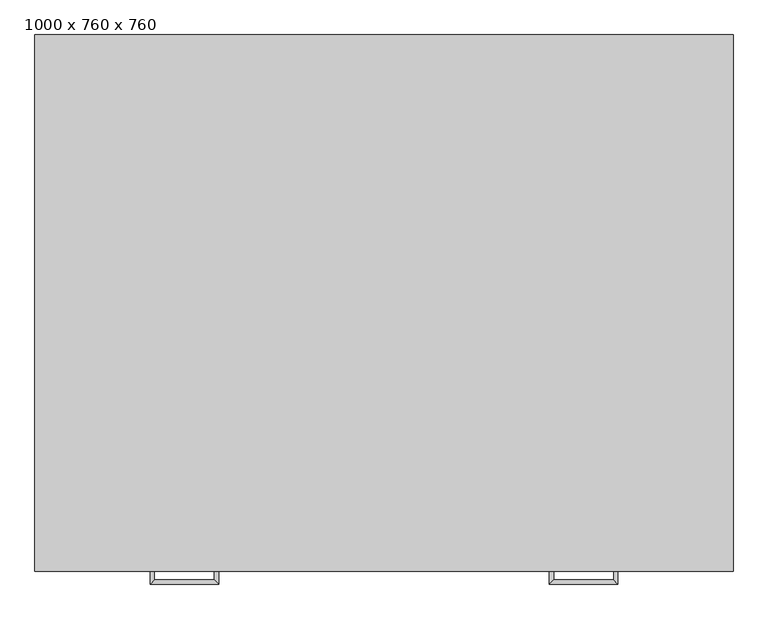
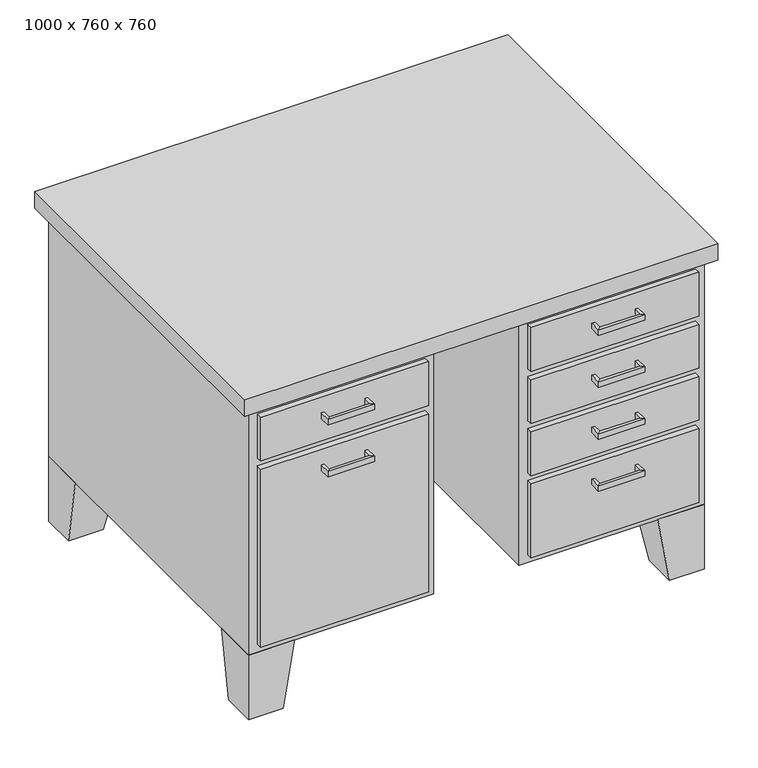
"""IFC4 building model written with IfcOpenShell, lengths in millimetres: furniture geometry, Schreibtisch-06 : 1000 x 760 x 760."""

from ifc_helpers import new_model, si_unit, frame, origin, place, context, project, spatial, polyline, outline, extrude, faceted_brep, source, transform, mapped, element, save


def furniture_1000_x_760_x_760_02e18f98(model_context):
    return source(origin(), model_context, "Body", "SolidModel", [
        extrude(outline(polyline([(281.05, 1.0), (649.35, 1.0), (649.35, -11.7), (281.05, -11.7), (281.05, 1.0)])), frame((0.0, 0.0, 601.25), z_axis=(0.0, 0.0, 1.0), x_axis=(1.0, 0.0, 0.0)), (0.0, 0.0, 1.0), 101.6),
        extrude(outline(polyline([(281.05, 1.0), (649.35, 1.0), (649.35, -11.7), (281.05, -11.7), (281.05, 1.0)])), frame((0.0, 0.0, 169.05), z_axis=(0.0, 0.0, 1.0), x_axis=(1.0, 0.0, 0.0)), (0.0, 0.0, 1.0), 413.15),
        extrude(outline(polyline([(874.65, 1.0), (1242.95, 1.0), (1242.95, -11.7), (874.65, -11.7), (874.65, 1.0)])), frame((0.0, 0.0, 600.85), z_axis=(0.0, 0.0, 1.0), x_axis=(1.0, 0.0, 0.0)), (0.0, 0.0, 1.0), 102.0),
        extrude(outline(polyline([(874.65, 1.0), (1242.95, 1.0), (1242.95, -11.7), (874.65, -11.7), (874.65, 1.0)])), frame((0.0, 0.0, 169.05), z_axis=(0.0, 0.0, 1.0), x_axis=(1.0, 0.0, 0.0)), (0.0, 0.0, 1.0), 171.45),
        extrude(outline(polyline([(874.65, 1.0), (1242.95, 1.0), (1242.95, -11.7), (874.65, -11.7), (874.65, 1.0)])), frame((0.0, 0.0, 480.2), z_axis=(0.0, 0.0, 1.0), x_axis=(1.0, 0.0, 0.0)), (0.0, 0.0, 1.0), 101.6),
        extrude(outline(polyline([(874.65, 1.0), (1242.95, 1.0), (1242.95, -11.7), (874.65, -11.7), (874.65, 1.0)])), frame((0.0, 0.0, 359.55), z_axis=(0.0, 0.0, 1.0), x_axis=(1.0, 0.0, 0.0)), (0.0, 0.0, 1.0), 101.6),
        faceted_brep([(363.6, 1.0, 150.0), (363.6, 102.6, 150.0), (262.0, 102.6, 150.0), (262.0, 1.0, 150.0), (338.2, 1.0, 0.0), (262.0, 1.0, 0.0), (262.0, 77.2, 0.0), (338.2, 77.2, 0.0)], [[[0, 1, 2, 3]], [[4, 5, 6, 7]], [[4, 7, 1, 0]], [[7, 6, 2, 1]], [[6, 5, 3, 2]], [[5, 4, 0, 3]]]),
        faceted_brep([(363.6, 761.0, 150.0), (262.0, 761.0, 150.0), (262.0, 659.4, 150.0), (363.6, 659.4, 150.0), (338.2, 761.0, 0.0), (338.2, 684.8, 0.0), (262.0, 684.8, 0.0), (262.0, 761.0, 0.0)], [[[0, 1, 2, 3]], [[4, 5, 6, 7]], [[4, 7, 1, 0]], [[7, 6, 2, 1]], [[6, 5, 3, 2]], [[5, 4, 0, 3]]]),
        faceted_brep([(1160.4, 761.0, 150.0), (1160.4, 659.4, 150.0), (1262.0, 659.4, 150.0), (1262.0, 761.0, 150.0), (1185.8, 761.0, 0.0), (1262.0, 761.0, 0.0), (1262.0, 684.8, 0.0), (1185.8, 684.8, 0.0)], [[[0, 1, 2, 3]], [[4, 5, 6, 7]], [[4, 7, 1, 0]], [[7, 6, 2, 1]], [[6, 5, 3, 2]], [[5, 4, 0, 3]]]),
        faceted_brep([(1160.4, 1.0, 150.0), (1262.0, 1.0, 150.0), (1262.0, 102.6, 150.0), (1160.4, 102.6, 150.0), (1185.8, 1.0, 0.0), (1185.8, 77.2, 0.0), (1262.0, 77.2, 0.0), (1262.0, 1.0, 0.0)], [[[0, 1, 2, 3]], [[4, 5, 6, 7]], [[4, 7, 1, 0]], [[7, 6, 2, 1]], [[6, 5, 3, 2]], [[5, 4, 0, 3]]]),
        extrude(outline(polyline([(855.6, 1.0), (855.6, 634.0), (668.4, 634.0), (668.4, 1.0), (262.0, 1.0), (262.0, 761.0), (1262.0, 761.0), (1262.0, 1.0), (855.6, 1.0)])), frame((0.0, 0.0, 150.0), z_axis=(0.0, 0.0, 1.0), x_axis=(1.0, 0.0, 0.0)), (0.0, 0.0, 1.0), 571.9),
        extrude(outline(polyline([(242.95, -18.05), (242.95, 780.05), (1281.05, 780.05), (1281.05, -18.05), (242.95, -18.05)])), frame((0.0, 0.0, 721.9), z_axis=(0.0, 0.0, 1.0), x_axis=(1.0, 0.0, 0.0)), (0.0, 0.0, 1.0), 38.1),
        faceted_brep([(420.75, -11.7, 546.1), (420.75, -11.7, 533.4), (414.4, -11.7, 533.4), (414.4, -11.7, 546.1), (420.75, -30.75, 546.1), (420.75, -30.75, 533.4), (414.4, -37.1, 533.4), (414.4, -37.1, 546.1), (509.65, -30.75, 546.1), (509.65, -30.75, 533.4), (516.0, -37.1, 533.4), (516.0, -37.1, 546.1), (509.65, -11.7, 546.1), (516.0, -11.7, 546.1), (516.0, -11.7, 533.4), (509.65, -11.7, 533.4)], [[[0, 1, 2, 3]], [[1, 0, 4, 5]], [[2, 1, 5, 6]], [[3, 2, 6, 7]], [[0, 3, 7, 4]], [[5, 4, 8, 9]], [[6, 5, 9, 10]], [[7, 6, 10, 11]], [[4, 7, 11, 8]], [[12, 13, 14, 15]], [[9, 8, 12, 15]], [[10, 9, 15, 14]], [[11, 10, 14, 13]], [[8, 11, 13, 12]]]),
        faceted_brep([(420.75, -11.7, 666.75), (420.75, -11.7, 654.05), (414.4, -11.7, 654.05), (414.4, -11.7, 666.75), (420.75, -30.75, 666.75), (420.75, -30.75, 654.05), (414.4, -37.1, 654.05), (414.4, -37.1, 666.75), (509.65, -30.75, 666.75), (509.65, -30.75, 654.05), (516.0, -37.1, 654.05), (516.0, -37.1, 666.75), (509.65, -11.7, 666.75), (516.0, -11.7, 666.75), (516.0, -11.7, 654.05), (509.65, -11.7, 654.05)], [[[0, 1, 2, 3]], [[1, 0, 4, 5]], [[2, 1, 5, 6]], [[3, 2, 6, 7]], [[0, 3, 7, 4]], [[5, 4, 8, 9]], [[6, 5, 9, 10]], [[7, 6, 10, 11]], [[4, 7, 11, 8]], [[12, 13, 14, 15]], [[9, 8, 12, 15]], [[10, 9, 15, 14]], [[11, 10, 14, 13]], [[8, 11, 13, 12]]]),
        faceted_brep([(1103.25, -11.7, 304.8), (1109.6, -11.7, 304.8), (1109.6, -11.7, 292.1), (1103.25, -11.7, 292.1), (1103.25, -30.75, 304.8), (1109.6, -37.1, 304.8), (1109.6, -37.1, 292.1), (1103.25, -30.75, 292.1), (1014.35, -30.75, 304.8), (1008.0, -37.1, 304.8), (1008.0, -37.1, 292.1), (1014.35, -30.75, 292.1), (1014.35, -11.7, 304.8), (1014.35, -11.7, 292.1), (1008.0, -11.7, 292.1), (1008.0, -11.7, 304.8)], [[[0, 1, 2, 3]], [[1, 0, 4, 5]], [[2, 1, 5, 6]], [[3, 2, 6, 7]], [[0, 3, 7, 4]], [[5, 4, 8, 9]], [[6, 5, 9, 10]], [[7, 6, 10, 11]], [[4, 7, 11, 8]], [[12, 13, 14, 15]], [[9, 8, 12, 15]], [[10, 9, 15, 14]], [[11, 10, 14, 13]], [[8, 11, 13, 12]]]),
        faceted_brep([(1103.25, -11.7, 425.45), (1109.6, -11.7, 425.45), (1109.6, -11.7, 412.75), (1103.25, -11.7, 412.75), (1103.25, -30.75, 425.45), (1109.6, -37.1, 425.45), (1109.6, -37.1, 412.75), (1103.25, -30.75, 412.75), (1014.35, -30.75, 425.45), (1008.0, -37.1, 425.45), (1008.0, -37.1, 412.75), (1014.35, -30.75, 412.75), (1014.35, -11.7, 425.45), (1014.35, -11.7, 412.75), (1008.0, -11.7, 412.75), (1008.0, -11.7, 425.45)], [[[0, 1, 2, 3]], [[1, 0, 4, 5]], [[2, 1, 5, 6]], [[3, 2, 6, 7]], [[0, 3, 7, 4]], [[5, 4, 8, 9]], [[6, 5, 9, 10]], [[7, 6, 10, 11]], [[4, 7, 11, 8]], [[12, 13, 14, 15]], [[9, 8, 12, 15]], [[10, 9, 15, 14]], [[11, 10, 14, 13]], [[8, 11, 13, 12]]]),
        faceted_brep([(1103.25, -11.7, 546.1), (1109.6, -11.7, 546.1), (1109.6, -11.7, 533.4), (1103.25, -11.7, 533.4), (1103.25, -30.75, 546.1), (1109.6, -37.1, 546.1), (1109.6, -37.1, 533.4), (1103.25, -30.75, 533.4), (1014.35, -30.75, 546.1), (1008.0, -37.1, 546.1), (1008.0, -37.1, 533.4), (1014.35, -30.75, 533.4), (1014.35, -11.7, 546.1), (1014.35, -11.7, 533.4), (1008.0, -11.7, 533.4), (1008.0, -11.7, 546.1)], [[[0, 1, 2, 3]], [[1, 0, 4, 5]], [[2, 1, 5, 6]], [[3, 2, 6, 7]], [[0, 3, 7, 4]], [[5, 4, 8, 9]], [[6, 5, 9, 10]], [[7, 6, 10, 11]], [[4, 7, 11, 8]], [[12, 13, 14, 15]], [[9, 8, 12, 15]], [[10, 9, 15, 14]], [[11, 10, 14, 13]], [[8, 11, 13, 12]]]),
        faceted_brep([(1103.25, -11.7, 666.75), (1109.6, -11.7, 666.75), (1109.6, -11.7, 654.05), (1103.25, -11.7, 654.05), (1103.25, -30.75, 666.75), (1109.6, -37.1, 666.75), (1109.6, -37.1, 654.05), (1103.25, -30.75, 654.05), (1014.35, -30.75, 666.75), (1008.0, -37.1, 666.75), (1008.0, -37.1, 654.05), (1014.35, -30.75, 654.05), (1014.35, -11.7, 666.75), (1014.35, -11.7, 654.05), (1008.0, -11.7, 654.05), (1008.0, -11.7, 666.75)], [[[0, 1, 2, 3]], [[1, 0, 4, 5]], [[2, 1, 5, 6]], [[3, 2, 6, 7]], [[0, 3, 7, 4]], [[5, 4, 8, 9]], [[6, 5, 9, 10]], [[7, 6, 10, 11]], [[4, 7, 11, 8]], [[12, 13, 14, 15]], [[9, 8, 12, 15]], [[10, 9, 15, 14]], [[11, 10, 14, 13]], [[8, 11, 13, 12]]]),
    ])


if __name__ == "__main__":
    model = new_model("IFC4")
    model_context = context("Model", 3, world=origin())
    ifc_project = project(units=[si_unit("LENGTHUNIT", "METRE", prefix="MILLI")], contexts=[model_context])
    site = spatial("IfcSite", under=ifc_project)
    building = spatial("IfcBuilding", under=site)
    placement = place(None, origin())
    furniture_1000_x_760_x_760_shape = furniture_1000_x_760_x_760_02e18f98(model_context)
    element("IfcFurniture", 1, ObjectType="Schreibtisch-06 : 1000 x 760 x 760", at=placement, inside=building, context=model_context, shape_type="MappedRepresentation", body=[
        mapped(furniture_1000_x_760_x_760_shape, transform((0.0, 0.0, 0.0), x_axis=(1.0, 0.0, 0.0), y_axis=(0.0, 1.0, 0.0), z_axis=(0.0, 0.0, 1.0))),
    ])
    save(model, "model.ifc")
